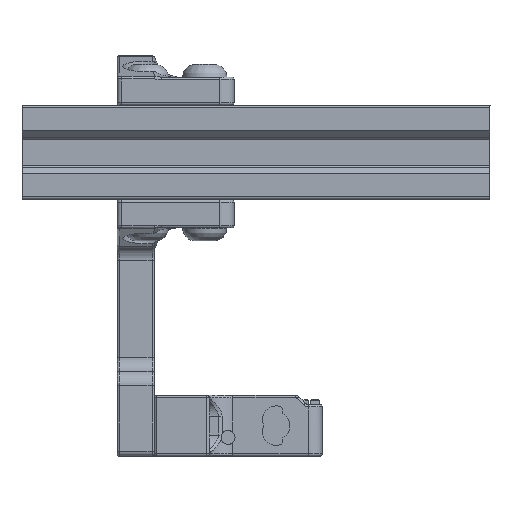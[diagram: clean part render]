
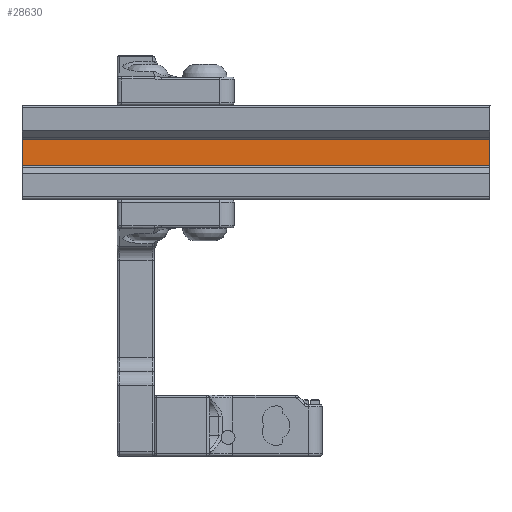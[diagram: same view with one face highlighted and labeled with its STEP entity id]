
A CAD part, front view. The second image highlights one B-rep face of the part: STEP entity #28630.
In plain terms, the highlighted planar face has unit normal (0, -1, 0).
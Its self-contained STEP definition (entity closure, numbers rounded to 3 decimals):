
#1304=PLANE('',#31573);
#3103=FACE_OUTER_BOUND('',#4855,.T.);
#4855=EDGE_LOOP('',(#26166,#26167,#26168,#26169));
#8799=LINE('',#107476,#10696);
#8919=LINE('',#107727,#10816);
#8920=LINE('',#107730,#10817);
#8921=LINE('',#107731,#10818);
#10696=VECTOR('',#38361,10.);
#10816=VECTOR('',#38599,10.);
#10817=VECTOR('',#38602,10.);
#10818=VECTOR('',#38603,10.);
#13442=VERTEX_POINT('',#107473);
#13443=VERTEX_POINT('',#107475);
#13515=VERTEX_POINT('',#107725);
#13516=VERTEX_POINT('',#107729);
#17625=EDGE_CURVE('',#13442,#13443,#8799,.T.);
#17751=EDGE_CURVE('',#13442,#13515,#8919,.T.);
#17752=EDGE_CURVE('',#13516,#13515,#8920,.F.);
#17753=EDGE_CURVE('',#13443,#13516,#8921,.T.);
#26166=ORIENTED_EDGE('',*,*,#17625,.F.);
#26167=ORIENTED_EDGE('',*,*,#17751,.T.);
#26168=ORIENTED_EDGE('',*,*,#17752,.F.);
#26169=ORIENTED_EDGE('',*,*,#17753,.F.);
#28630=ADVANCED_FACE('',(#3103),#1304,.T.);
#31573=AXIS2_PLACEMENT_3D('',#107728,#38600,#38601);
#38361=DIRECTION('',(0.,0.,1.));
#38599=DIRECTION('',(1.,0.,0.));
#38600=DIRECTION('center_axis',(0.,-1.,0.));
#38601=DIRECTION('ref_axis',(0.,0.,
-1.));
#38602=DIRECTION('',(0.,0.,1.));
#38603=DIRECTION('',(1.,0.,0.));
#107473=CARTESIAN_POINT('',(76.7,66.95,60.865));
#107475=CARTESIAN_POINT('',(76.7,66.95,66.555));
#107476=CARTESIAN_POINT('',(76.7,66.95,65.133));
#107725=CARTESIAN_POINT('',(176.7,66.95,60.865));
#107727=CARTESIAN_POINT('',(26.7,66.95,60.865));
#107728=CARTESIAN_POINT('Origin',(26.7,66.95,66.555));
#107729=CARTESIAN_POINT('',(176.7,66.95,66.555));
#107730=CARTESIAN_POINT('',(176.7,66.95,65.132));
#107731=CARTESIAN_POINT('',(26.7,66.95,66.555));
